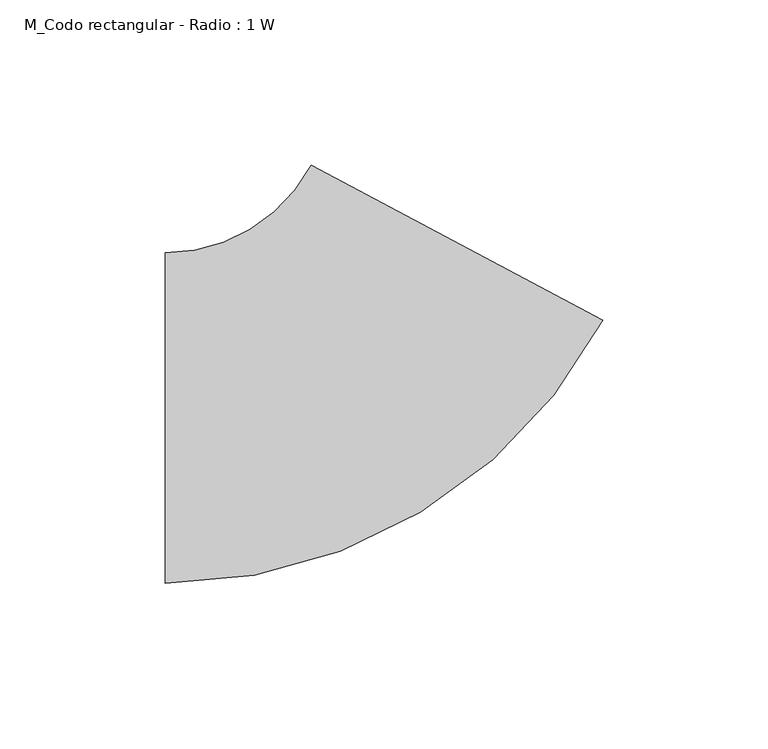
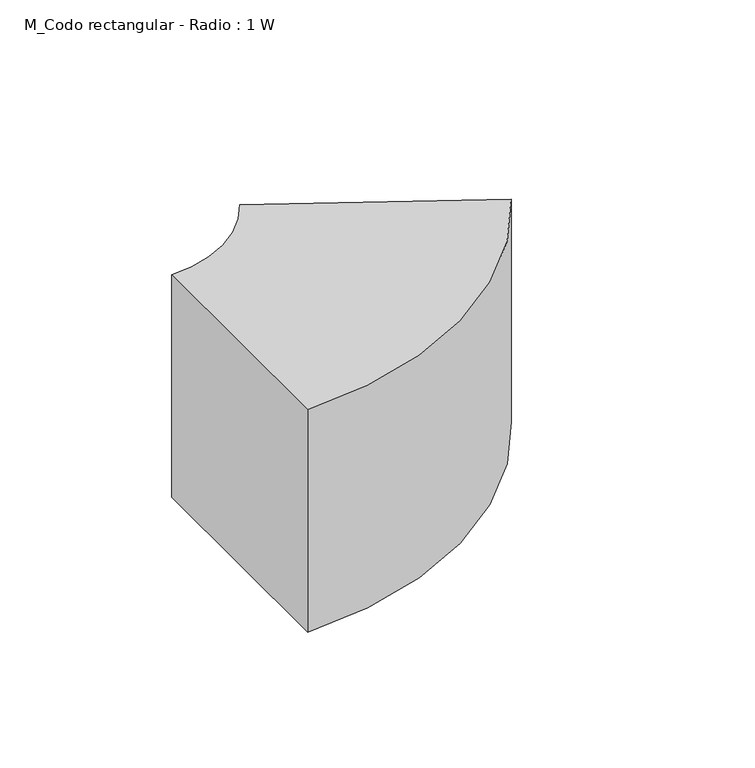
"""IFC4 building model written with IfcOpenShell, lengths in millimetres: duct fitting geometry, M_Codo rectangular - Radio : 1 W."""

from ifc_helpers import new_model, si_unit, point, frame, frame_2d, origin, place, context, project, spatial, polyline, circle_curve, trimmed, segment, composite_curve, outline, extrude, source, transform, mapped, element, save


def m_codo_rectangular_radio_1_w_13c99fea(model_context):
    return source(origin(), model_context, "Body", "SweptSolid", [
        extrude(outline(composite_curve([segment(trimmed(circle_curve(frame_2d((-60.0860619, 100.0)), 150.0), [point((72.356077, 29.5792656))], [point((-60.0860619, -50.0))], False, "CARTESIAN"), True, "CONTINUOUS"), segment(polyline([(-60.0860619, -50.0), (-60.0860619, 50.0)]), True, "CONTINUOUS"), segment(trimmed(circle_curve(frame_2d((-60.0860619, 100.0)), 50.0), [point((-60.0860619, 50.0))], [point((-15.9386823, 76.5264219))], True, "CARTESIAN"), True, "CONTINUOUS"), segment(polyline([(-15.9386823, 76.5264219), (72.356077, 29.5792656)]), True, "CONTINUOUS")], self_intersect=False)), frame((0.0, 0.0, -50.0), z_axis=(0.0, 0.0, 1.0), x_axis=(1.0, 0.0, 0.0)), (0.0, 0.0, 1.0), 100.0),
    ])


if __name__ == "__main__":
    model = new_model("IFC4")
    model_context = context("Model", 3, world=origin())
    ifc_project = project(units=[si_unit("LENGTHUNIT", "METRE", prefix="MILLI")], contexts=[model_context])
    site = spatial("IfcSite", under=ifc_project)
    building = spatial("IfcBuilding", under=site)
    placement = place(None, origin())
    m_codo_rectangular_radio_1_w_shape = m_codo_rectangular_radio_1_w_13c99fea(model_context)
    element("IfcDuctFitting", 1, ObjectType="M_Codo rectangular - Radio : 1 W", at=placement, inside=building, context=model_context, shape_type="MappedRepresentation", body=[
        mapped(m_codo_rectangular_radio_1_w_shape, transform((0.0, 0.0, 0.0), x_axis=(1.0, 0.0, 0.0), y_axis=(0.0, 1.0, 0.0), z_axis=(0.0, 0.0, 1.0))),
    ])
    save(model, "model.ifc")
